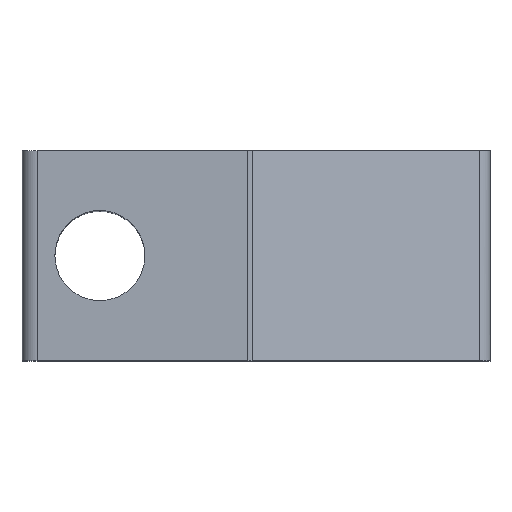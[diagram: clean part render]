
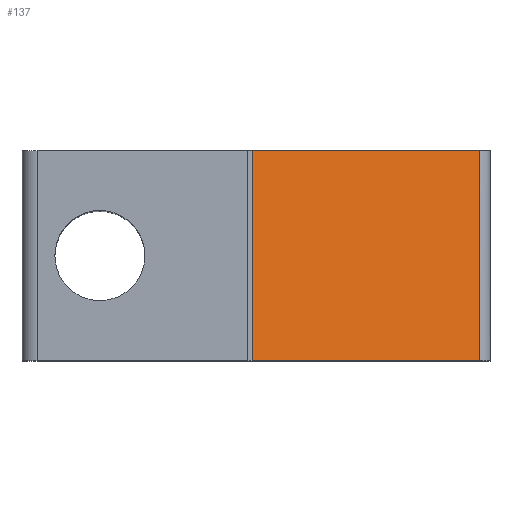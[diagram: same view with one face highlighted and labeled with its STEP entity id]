
A CAD part, top view. The second image highlights one B-rep face of the part: STEP entity #137.
In plain terms, the highlighted planar face has unit normal (0.269, 0, 0.963).
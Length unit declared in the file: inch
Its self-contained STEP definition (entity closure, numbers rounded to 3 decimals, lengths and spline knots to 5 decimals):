
#137=ADVANCED_FACE('',(#287),#288,.T.);
#287=FACE_OUTER_BOUND('',#543,.T.);
#288=PLANE('',#544);
#543=EDGE_LOOP('',(#869,#870,#871,#872));
#544=AXIS2_PLACEMENT_3D('',#873,#874,#875);
#869=ORIENTED_EDGE('',*,*,#1079,.T.);
#870=ORIENTED_EDGE('',*,*,#1093,.F.);
#871=ORIENTED_EDGE('',*,*,#1143,.T.);
#872=ORIENTED_EDGE('',*,*,#1186,.T.);
#873=CARTESIAN_POINT('',(1.36988,0.875,1.86481));
#874=DIRECTION('',(0.269,0.0,0.963));
#875=DIRECTION('',(-0.963,0.0,0.269));
#1079=EDGE_CURVE('',#1263,#1261,#1264,.T.);
#1093=EDGE_CURVE('',#1286,#1261,#1288,.T.);
#1143=EDGE_CURVE('',#1286,#1371,#1373,.T.);
#1186=EDGE_CURVE('',#1371,#1263,#1433,.T.);
#1261=VERTEX_POINT('',#1529);
#1263=VERTEX_POINT('',#1534);
#1264=LINE('',#1535,#1536);
#1286=VERTEX_POINT('',#1575);
#1288=LINE('',#1580,#1581);
#1371=VERTEX_POINT('',#1747);
#1373=LINE('',#1749,#1750);
#1433=LINE('',#1855,#1856);
#1529=CARTESIAN_POINT('',(1.8434,0.,1.73246));
#1534=CARTESIAN_POINT('',(0.89636,0.,1.99716));
#1535=CARTESIAN_POINT('',(1.8434,0.,1.73246));
#1536=VECTOR('',#1966,1.0);
#1575=CARTESIAN_POINT('',(1.8434,0.875,1.73246));
#1580=CARTESIAN_POINT('',(1.8434,0.875,1.73246));
#1581=VECTOR('',#1975,1.0);
#1747=CARTESIAN_POINT('',(0.89636,0.875,1.99716));
#1749=CARTESIAN_POINT('',(1.8434,0.875,1.73246));
#1750=VECTOR('',#1999,1.0);
#1855=CARTESIAN_POINT('',(0.89636,0.875,1.99716));
#1856=VECTOR('',#2021,1.0);
#1966=DIRECTION('',(0.963,0.0,-0.269));
#1975=DIRECTION('',(0.0,-1.0,0.0));
#1999=DIRECTION('',(-0.963,0.0,0.269));
#2021=DIRECTION('',(0.0,-1.0,0.0));
